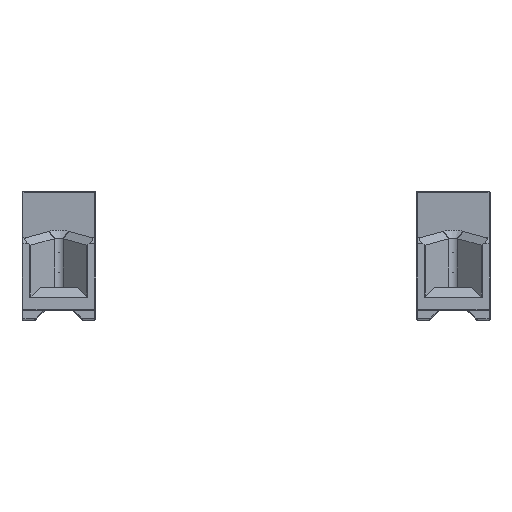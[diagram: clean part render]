
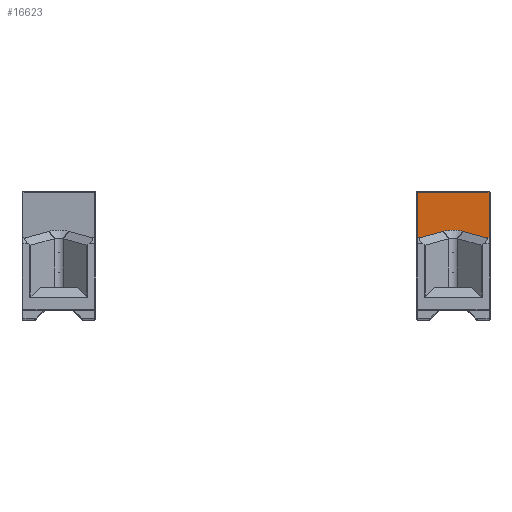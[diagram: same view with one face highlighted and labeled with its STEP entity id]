
A CAD part, left-side view. The second image highlights one B-rep face of the part: STEP entity #16623.
In plain terms, the highlighted planar face has unit normal (-0.25, 0, 0.968).
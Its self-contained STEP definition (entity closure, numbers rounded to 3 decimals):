
#902=B_SPLINE_CURVE_WITH_KNOTS('',3,(#24182,#24183,#24184,#24185),
 .UNSPECIFIED.,.F.,.F.,(4,4),(3.591,3.647),
 .UNSPECIFIED.);
#903=B_SPLINE_CURVE_WITH_KNOTS('',3,(#24187,#24188,#24189,#24190,#24191,
#24192),.UNSPECIFIED.,.F.,.F.,(4,1,1,4),(-0.819,-0.351,
0.117,0.819),.UNSPECIFIED.);
#904=B_SPLINE_CURVE_WITH_KNOTS('',3,(#24193,#24194,#24195,#24196),
 .UNSPECIFIED.,.F.,.F.,(4,4),(-4.959,-4.902),
 .UNSPECIFIED.);
#905=B_SPLINE_CURVE_WITH_KNOTS('',3,(#24203,#24204,#24205,#24206),
 .UNSPECIFIED.,.F.,.F.,(4,4),(-6.61,-6.515),
 .UNSPECIFIED.);
#1473=FACE_OUTER_BOUND('',#2502,.T.);
#2502=EDGE_LOOP('',(#11297,#11298,#11299,#11300,#11301,#11302,#11303,#11304,
#11305,#11306,#11307,#11308));
#3585=LINE('',#23511,#5271);
#3638=LINE('',#23906,#5324);
#3717=LINE('',#24167,#5403);
#3720=LINE('',#24178,#5406);
#3721=LINE('',#24180,#5407);
#3722=LINE('',#24198,#5408);
#3723=LINE('',#24200,#5409);
#3724=LINE('',#24202,#5410);
#5271=VECTOR('',#19035,10.);
#5324=VECTOR('',#19138,10.);
#5403=VECTOR('',#19339,10.);
#5406=VECTOR('',#19352,10.);
#5407=VECTOR('',#19353,10.);
#5408=VECTOR('',#19354,10.);
#5409=VECTOR('',#19355,10.);
#5410=VECTOR('',#19356,10.);
#6963=VERTEX_POINT('',#23508);
#6964=VERTEX_POINT('',#23510);
#7016=VERTEX_POINT('',#23903);
#7017=VERTEX_POINT('',#23905);
#7084=VERTEX_POINT('',#24158);
#7089=VERTEX_POINT('',#24177);
#7090=VERTEX_POINT('',#24179);
#7091=VERTEX_POINT('',#24181);
#7092=VERTEX_POINT('',#24186);
#7093=VERTEX_POINT('',#24197);
#7094=VERTEX_POINT('',#24199);
#7095=VERTEX_POINT('',#24201);
#8481=EDGE_CURVE('',#6964,#6963,#3585,.T.);
#8559=EDGE_CURVE('',#7016,#7017,#3638,.T.);
#8668=EDGE_CURVE('',#7084,#6963,#3717,.T.);
#8673=EDGE_CURVE('',#7089,#7084,#3720,.T.);
#8674=EDGE_CURVE('',#7090,#7089,#3721,.T.);
#8675=EDGE_CURVE('',#7091,#7090,#902,.T.);
#8676=EDGE_CURVE('',#7092,#7091,#903,.T.);
#8677=EDGE_CURVE('',#7017,#7092,#904,.T.);
#8678=EDGE_CURVE('',#7093,#7016,#3722,.T.);
#8679=EDGE_CURVE('',#7094,#7093,#3723,.T.);
#8680=EDGE_CURVE('',#7095,#7094,#3724,.T.);
#8681=EDGE_CURVE('',#6964,#7095,#905,.T.);
#11297=ORIENTED_EDGE('',*,*,#8668,.F.);
#11298=ORIENTED_EDGE('',*,*,#8673,.F.);
#11299=ORIENTED_EDGE('',*,*,#8674,.F.);
#11300=ORIENTED_EDGE('',*,*,#8675,.F.);
#11301=ORIENTED_EDGE('',*,*,#8676,.F.);
#11302=ORIENTED_EDGE('',*,*,#8677,.F.);
#11303=ORIENTED_EDGE('',*,*,#8559,.F.);
#11304=ORIENTED_EDGE('',*,*,#8678,.F.);
#11305=ORIENTED_EDGE('',*,*,#8679,.F.);
#11306=ORIENTED_EDGE('',*,*,#8680,.F.);
#11307=ORIENTED_EDGE('',*,*,#8681,.F.);
#11308=ORIENTED_EDGE('',*,*,#8481,.T.);
#16075=PLANE('',#17752);
#16623=ADVANCED_FACE('',(#1473),#16075,.T.);
#17752=AXIS2_PLACEMENT_3D('',#24176,#19350,#19351);
#19035=DIRECTION('',(0.,1.,0.));
#19138=DIRECTION('',(0.718,0.671,0.185));
#19339=DIRECTION('',(0.968,0.,0.25));
#19350=DIRECTION('center_axis',(-0.25,0.,0.968));
#19351=DIRECTION('ref_axis',(-0.968,0.,-0.25));
#19352=DIRECTION('',(0.,1.,0.));
#19353=DIRECTION('',(-0.718,0.671,-0.185));
#19354=DIRECTION('',(0.,1.,0.));
#19355=DIRECTION('',(-0.968,0.,-0.25));
#19356=DIRECTION('',(0.,-1.,0.));
#23508=CARTESIAN_POINT('',(-167.651,-69.649,18.954));
#23510=CARTESIAN_POINT('',(-167.651,-102.284,18.954));
#23511=CARTESIAN_POINT('',(-167.651,-79.25,18.954));
#23903=CARTESIAN_POINT('',(-252.593,-102.193,-2.969));
#23905=CARTESIAN_POINT('',(-241.283,-91.618,-0.05));
#23906=CARTESIAN_POINT('',(-205.688,-58.338,9.137));
#24158=CARTESIAN_POINT('',(-252.593,-69.649,-2.969));
#24167=CARTESIAN_POINT('',(-138.994,-69.649,26.351));
#24176=CARTESIAN_POINT('Origin',(-133.116,-79.25,27.868));
#24177=CARTESIAN_POINT('',(-252.593,-71.307,-2.969));
#24178=CARTESIAN_POINT('',(-252.593,-79.25,-2.969));
#24179=CARTESIAN_POINT('',(-241.283,-81.882,-0.05));
#24180=CARTESIAN_POINT('',(-215.103,-106.359,6.707));
#24181=CARTESIAN_POINT('',(-240.877,-82.262,0.055));
#24182=CARTESIAN_POINT('Ctrl Pts',(-240.877,-82.262,0.055));
#24183=CARTESIAN_POINT('Ctrl Pts',(-241.012,-82.135,
0.02));
#24184=CARTESIAN_POINT('Ctrl Pts',(-241.148,-82.008,
-0.015));
#24185=CARTESIAN_POINT('Ctrl Pts',(-241.283,-81.882,
-0.05));
#24186=CARTESIAN_POINT('',(-240.877,-91.238,0.055));
#24187=CARTESIAN_POINT('Ctrl Pts',(-240.877,-91.238,0.055));
#24188=CARTESIAN_POINT('Ctrl Pts',(-240.189,-90.595,0.233));
#24189=CARTESIAN_POINT('Ctrl Pts',(-239.105,-88.966,
0.512));
#24190=CARTESIAN_POINT('Ctrl Pts',(-238.691,-85.5,
0.619));
#24191=CARTESIAN_POINT('Ctrl Pts',(-239.844,-83.227,0.321));
#24192=CARTESIAN_POINT('Ctrl Pts',(-240.877,-82.262,0.055));
#24193=CARTESIAN_POINT('Ctrl Pts',(-241.283,-91.618,
-0.05));
#24194=CARTESIAN_POINT('Ctrl Pts',(-241.148,-91.492,
-0.015));
#24195=CARTESIAN_POINT('Ctrl Pts',(-241.012,-91.365,
0.02));
#24196=CARTESIAN_POINT('Ctrl Pts',(-240.877,-91.238,0.055));
#24197=CARTESIAN_POINT('',(-252.593,-103.851,-2.969));
#24198=CARTESIAN_POINT('',(-252.593,-79.25,-2.969));
#24199=CARTESIAN_POINT('',(-167.349,-103.851,19.032));
#24200=CARTESIAN_POINT('',(-138.994,-103.851,26.351));
#24201=CARTESIAN_POINT('',(-167.349,-102.345,19.032));
#24202=CARTESIAN_POINT('',(-167.349,-79.25,19.032));
#24203=CARTESIAN_POINT('Ctrl Pts',(-167.651,-102.284,18.954));
#24204=CARTESIAN_POINT('Ctrl Pts',(-167.55,-102.308,
18.98));
#24205=CARTESIAN_POINT('Ctrl Pts',(-167.45,-102.328,
19.006));
#24206=CARTESIAN_POINT('Ctrl Pts',(-167.349,-102.345,
19.032));
